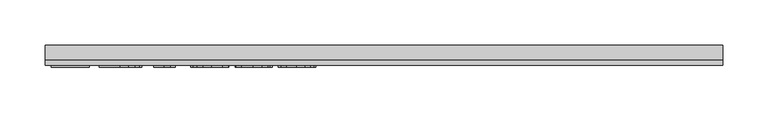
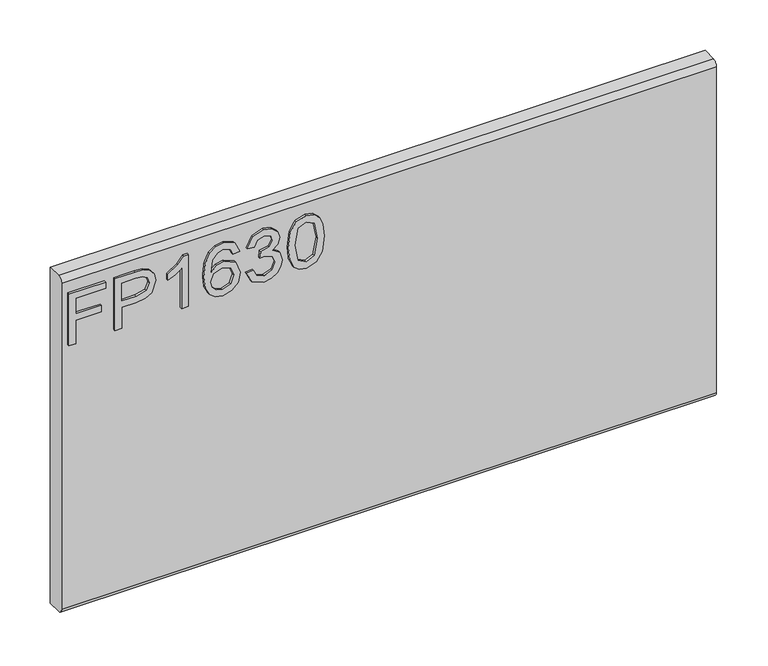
"""IFC4 building model written with IfcOpenShell, lengths in millimetres: furniture geometry."""

import ifcopenshell
import ifcopenshell.guid

model = None  # the IFC model being written
_history = None  # IfcOwnerHistory: only IFC2X3 demands one
_inside = {}  # id of a spatial element -> (the spatial element, [elements in it])
_under = {}  # id of a project, library or spatial element -> (it, [spatial elements below it])
_declared = {}  # id of a project -> (the project, [libraries it declares])
_typed = {}  # id of a type object -> (the type object, [elements of that type])
_made_of = {}  # id of a material, layer set ... -> (it, [elements and type objects made of it])


def new_model(schema):
    """Start an empty IFC model of exactly this schema.

    Asked for "IFC4X3", IfcOpenShell would pick the latest addendum, in which some entities
    have other attributes; the version numbers below select the first issue.
    IFC2X3 requires an IfcOwnerHistory on every rooted entity: one is made here for all.
    """
    global model, _history
    if schema == "IFC4X3":
        model = ifcopenshell.file(schema_version=(4, 3, 0, 0))
    else:
        model = ifcopenshell.file(schema=schema)
    _inside.clear()
    _under.clear()
    _declared.clear()
    _typed.clear()
    _made_of.clear()
    _history = None
    if model.schema == "IFC2X3":
        org = make("IfcOrganization", Name="unknown")
        user = make(
            "IfcPersonAndOrganization",
            ThePerson=make("IfcPerson", FamilyName="unknown"),
            TheOrganization=org,
        )
        app = make(
            "IfcApplication",
            ApplicationDeveloper=org,
            Version="unknown",
            ApplicationFullName="unknown",
            ApplicationIdentifier="unknown",
        )
        _history = make(
            "IfcOwnerHistory",
            OwningUser=user,
            OwningApplication=app,
            ChangeAction="ADDED",
            CreationDate=0,
        )
    return model


def make(cls, **values):
    """One entity of the class cls with the attributes given. An attribute that is None is left unset."""
    return model.create_entity(
        cls, **{name: value for name, value in values.items() if value is not None}
    )


def rooted(cls, **values):
    """An entity with a GlobalId (a new one), such as an element, a storey or a relation."""
    return make(cls, GlobalId=ifcopenshell.guid.new(), OwnerHistory=_history, **values)


def si_unit(unit_type, name, prefix=None):
    """IfcSIUnit, for example si_unit("LENGTHUNIT", "METRE", prefix="MILLI")."""
    return make("IfcSIUnit", UnitType=unit_type, Prefix=prefix, Name=name)


def assignment(units):
    """IfcUnitAssignment: the units of a project."""
    return None if units is None else make("IfcUnitAssignment", Units=units)


def point(xyz):
    """IfcCartesianPoint."""
    return None if xyz is None else make("IfcCartesianPoint", Coordinates=xyz)


def direction(xyz):
    """IfcDirection."""
    return None if xyz is None else make("IfcDirection", DirectionRatios=xyz)


def frame(location, z_axis=None, x_axis=None):
    """IfcAxis2Placement3D, a coordinate frame: its origin and axes. An axis left out is left unset."""
    return make(
        "IfcAxis2Placement3D",
        Location=point(location),
        Axis=direction(z_axis),
        RefDirection=direction(x_axis),
    )


def origin():
    """The frame at (0, 0, 0) with its axes left unset."""
    return frame((0.0, 0.0, 0.0))


def place(relative_to, where):
    """IfcLocalPlacement: puts the frame where relative to a parent placement (None: the world)."""
    return make(
        "IfcLocalPlacement", PlacementRelTo=relative_to, RelativePlacement=where
    )


def context(
    kind, dimensions, precision=None, world=None, true_north=None, identifier=None
):
    """IfcGeometricRepresentationContext, for example the 3D "Model" context."""
    return make(
        "IfcGeometricRepresentationContext",
        ContextIdentifier=identifier,
        ContextType=kind,
        CoordinateSpaceDimension=dimensions,
        Precision=precision,
        WorldCoordinateSystem=world,
        TrueNorth=true_north,
    )


def project(units=None, contexts=None):
    """IfcProject with its units and contexts."""
    return rooted(
        "IfcProject",
        Name="project",
        RepresentationContexts=contexts,
        UnitsInContext=assignment(units),
    )


def spatial(cls, under=None, at=None, **own):
    """A site, building, storey or space (cls), placed at a placement, below another one or the project."""
    s = rooted(cls, ObjectPlacement=at, **own)
    if under is not None:
        _under.setdefault(under.id(), (under, []))[1].append(s)
    return s


def polyline(points):
    """IfcPolyline through the points."""
    return make("IfcPolyline", Points=[point(p) for p in points])


def circle_curve(where, radius):
    """IfcCircle in the frame where."""
    return make("IfcCircle", Position=where, Radius=radius)


def outline(outer, holes=None, kind="AREA"):
    """IfcArbitraryClosedProfileDef: a profile drawn as a closed curve; with holes, ...WithVoids."""
    if holes is None:
        return make("IfcArbitraryClosedProfileDef", ProfileType=kind, OuterCurve=outer)
    return make(
        "IfcArbitraryProfileDefWithVoids",
        ProfileType=kind,
        OuterCurve=outer,
        InnerCurves=holes,
    )


def extrude(swept, where, along, depth):
    """IfcExtrudedAreaSolid: the profile swept, set in the frame where, extruded along a direction by depth."""
    return make(
        "IfcExtrudedAreaSolid",
        SweptArea=swept,
        Position=where,
        ExtrudedDirection=direction(along),
        Depth=depth,
    )


def shape(context_of_items, identifier, shape_type, items):
    """IfcShapeRepresentation: the items that make up one representation, for example the "Body"."""
    return make(
        "IfcShapeRepresentation",
        ContextOfItems=context_of_items,
        RepresentationIdentifier=identifier,
        RepresentationType=shape_type,
        Items=items,
    )


def source(mapping_origin, context_of_items, identifier, shape_type, items):
    """IfcRepresentationMap: a shape defined once, which mapped items show again and again."""
    return make(
        "IfcRepresentationMap",
        MappingOrigin=mapping_origin,
        MappedRepresentation=shape(context_of_items, identifier, shape_type, items),
    )


def transform(
    local_origin,
    x_axis=None,
    y_axis=None,
    z_axis=None,
    scale=None,
    scale2=None,
    scale3=None,
    uniform=True,
):
    """IfcCartesianTransformationOperator3D, or its non-uniform kind. x_axis, y_axis, z_axis: its Axis1, 2, 3."""
    if uniform:
        return make(
            "IfcCartesianTransformationOperator3D",
            Axis1=direction(x_axis),
            Axis2=direction(y_axis),
            LocalOrigin=point(local_origin),
            Scale=scale,
            Axis3=direction(z_axis),
        )
    return make(
        "IfcCartesianTransformationOperator3DnonUniform",
        Axis1=direction(x_axis),
        Axis2=direction(y_axis),
        LocalOrigin=point(local_origin),
        Scale=scale,
        Axis3=direction(z_axis),
        Scale2=scale2,
        Scale3=scale3,
    )


def mapped(mapping_source, mapping_target):
    """IfcMappedItem: shows the shape of a source again, moved by a transform."""
    return make(
        "IfcMappedItem", MappingSource=mapping_source, MappingTarget=mapping_target
    )


def made_of(thing, what):
    """Note that an element or type object is made of a material, layer set ...; save() writes the relation."""
    if what is not None:
        _made_of.setdefault(what.id(), (what, []))[1].append(thing)
    return thing


def element(
    cls,
    number,
    at=None,
    inside=None,
    cuts=None,
    type_object=None,
    material=None,
    context=None,
    identifier="Body",
    shape_type=None,
    held_by="IfcProductDefinitionShape",
    body=None,
    shapes=None,
    **own,
):
    """One element of the class cls, such as IfcWall. Its Tag is "e" and its number.

    at: its placement. inside: the storey or other place that contains it. cuts: it is an
    opening in that element (IfcRelVoidsElement). A single representation is given by context,
    identifier, shape_type and body (its items); several are given by shapes. held_by: the class
    of the entity that holds the representations. save() writes the other relations.
    """
    e = rooted(cls, Tag="e%d" % number, ObjectPlacement=at, **own)
    if body is not None:
        shapes = [shape(context, identifier, shape_type, body)]
    if shapes is not None:
        e.Representation = make(held_by, Representations=shapes)
    if inside is not None:
        _inside.setdefault(inside.id(), (inside, []))[1].append(e)
    if cuts is not None:
        rooted(
            "IfcRelVoidsElement", RelatingBuildingElement=cuts, RelatedOpeningElement=e
        )
    if type_object is not None:
        _typed.setdefault(type_object.id(), (type_object, []))[1].append(e)
    return made_of(e, material)


def aggregate(whole, parts):
    """IfcRelAggregates: a whole, such as a stair, and the parts it consists of."""
    return rooted("IfcRelAggregates", RelatingObject=whole, RelatedObjects=parts)


def save(model, path):
    """Write the relations noted so far, then the file.

    IfcRelAggregates (storeys below a building ...), IfcRelContainedInSpatialStructure (elements
    in a storey), IfcRelDefinesByType, IfcRelAssociatesMaterial and IfcRelDeclares: one each for
    every whole, place, type object, material and project.
    """
    for whole, parts in _under.values():
        aggregate(whole, parts)
    for where, things in _inside.values():
        rooted(
            "IfcRelContainedInSpatialStructure",
            RelatedElements=things,
            RelatingStructure=where,
        )
    for kind, things in _typed.values():
        rooted("IfcRelDefinesByType", RelatedObjects=things, RelatingType=kind)
    for what, things in _made_of.values():
        rooted("IfcRelAssociatesMaterial", RelatedObjects=things, RelatingMaterial=what)
    for by, libraries in _declared.values():
        rooted("IfcRelDeclares", RelatingContext=by, RelatedDefinitions=libraries)
    model.write(path)


def plane_surface(at):
    """IfcPlane: the flat surface through the origin of the frame at, square to its z axis."""
    return make("IfcPlane", Position=at)


def cylinder_surface(at, radius):
    """IfcCylindricalSurface: all points at the distance radius from the z axis of the frame at."""
    return make("IfcCylindricalSurface", Position=at, Radius=radius)


def advanced_brep(points, edges, surfaces, faces):
    """IfcAdvancedBrep: a solid bounded by faces that lie on surfaces and meet in shared edges.

    An edge is (start, end): straight between two places in points (the first is 0);
    or (start, end, curve); or (start, end, curve, False) where it runs against its curve.
    A face is (place in surfaces, loops), or (place, loops, False) where it looks against
    its surface's normal. A loop lists edges by number (the first is 1), with a minus sign
    where the edge is run from its end to its start. The first loop is the outer one.
    """
    corners = [point(p) for p in points]
    vertices = [make("IfcVertexPoint", VertexGeometry=c) for c in corners]
    made = []
    for start, end, *more in edges:
        made.append(
            make(
                "IfcEdgeCurve",
                EdgeStart=vertices[start],
                EdgeEnd=vertices[end],
                EdgeGeometry=more[0] if more else make("IfcPolyline", Points=[corners[start], corners[end]]),
                SameSense=more[1] if len(more) > 1 else True,
            )
        )
    hull = []
    for where, loops, *sense in faces:
        bounds = []
        for j, loop in enumerate(loops):
            ring = [make("IfcOrientedEdge", EdgeElement=made[abs(k) - 1], Orientation=k > 0) for k in loop]
            bounds.append(
                make(
                    "IfcFaceOuterBound" if j == 0 else "IfcFaceBound",
                    Bound=make("IfcEdgeLoop", EdgeList=ring),
                    Orientation=True,
                )
            )
        hull.append(make("IfcAdvancedFace", Bounds=bounds, FaceSurface=surfaces[where], SameSense=sense[0] if sense else True))
    return make("IfcAdvancedBrep", Outer=make("IfcClosedShell", CfsFaces=hull))


def furniture_44389360(model_context):
    return source(origin(), model_context, "Body", "SolidModel", [
        extrude(outline(polyline([(882.65, -367.8115385), (882.65, -359.9961538), (910.9807692, -359.9961538), (910.9807692, -330.6884615), (918.7961538, -330.6884615), (918.7961538, -359.9961538), (937.3576923, -359.9961538), (937.3576923, -325.8038462), (945.1730769, -325.8038462), (945.1730769, -367.8115385), (882.65, -367.8115385)])), frame((0.0, -15.0812439, 0.0), z_axis=(0.0, 1.0, 0.0), x_axis=(0.0, 0.0, 1.0)), (0.0, 0.0, 1.0), 2.38125),
        extrude(outline(polyline([(882.65, -315.0576923), (882.65, -307.2423077), (908.05, -307.2423077), (908.05, -291.3520433), (909.4314303, -280.2490835), (913.5757212, -273.195012), (927.0847356, -268.1653846), (935.6099159, -270.0276442), (941.6546274, -274.9504207), (944.5777644, -282.5444712), (945.1730769, -291.8862981), (945.1730769, -315.0576923), (882.65, -315.0576923)]), holes=[polyline([(915.8653846, -307.2423077), (937.3576923, -307.2423077), (937.3576923, -291.0772837), (936.8234375, -283.261899), (933.2820913, -277.9880409), (926.809976, -275.9807692), (918.7350962, -279.3847356), (915.8653846, -290.8941106), (915.8653846, -307.2423077)])]), frame((0.0, -15.0812439, 0.0), z_axis=(0.0, 1.0, 0.0), x_axis=(0.0, 0.0, 1.0)), (0.0, 0.0, 1.0), 2.38125),
        extrude(outline(polyline([(882.65, -231.0423077), (945.1730769, -231.0423077), (945.1730769, -236.0795673), (936.8539663, -243.032512), (929.5423077, -254.4884615), (922.1543269, -254.4884615), (926.1001803, -246.2609375), (931.3740385, -238.8576923), (882.65, -238.8576923), (882.65, -231.0423077)])), frame((0.0, -15.0812439, 0.0), z_axis=(0.0, 1.0, 0.0), x_axis=(0.0, 0.0, 1.0)), (0.0, 0.0, 1.0), 2.38125),
        extrude(outline(polyline([(928.5653846, -172.4269231), (940.7616587, -178.196875), (945.1730769, -190.5457933), (943.3909555, -199.6166767), (938.0445913, -206.6192308), (927.4014724, -211.7480769), (911.8355769, -213.4576923), (897.9907452, -211.9178936), (888.6947115, -207.2984976), (883.4284856, -200.2367939), (881.6730769, -191.3700721), (884.3214543, -181.1276442), (891.9536659, -174.0296875), (902.7379808, -171.45), (917.1323317, -176.9299279), (922.7038462, -190.209976), (920.6660457, -198.7504207), (914.4305288, -205.6423077), (928.3593149, -203.4213341), (935.4649038, -198.0864183), (937.3576923, -191.0342548), (934.1063702, -183.2036058), (927.5884615, -180.2423077), (928.5653846, -172.4269231)]), holes=[polyline([(902.8600962, -205.6423077), (911.5684495, -201.757512), (914.8884615, -192.3012019), (911.5684495, -182.7227764), (902.4784856, -179.2653846), (892.9840144, -182.7685697), (889.4884615, -191.980649), (891.1751803, -199.0251803), (896.0903245, -203.8334736), (902.8600962, -205.6423077)])]), frame((0.0, -15.0812439, 0.0), z_axis=(0.0, 1.0, 0.0), x_axis=(0.0, 0.0, 1.0)), (0.0, 0.0, 1.0), 2.38125),
        extrude(outline(polyline([(899.2576923, -164.6115385), (886.5729567, -158.3989183), (881.6730769, -144.6914663), (883.1079327, -136.3380108), (887.4125, -129.5644231), (893.7777644, -125.0766827), (901.3947115, -123.5807692), (911.5608173, -126.5725962), (916.9033654, -135.0901442), (922.0780048, -128.6790865), (929.2828125, -126.5115385), (937.166887, -128.7935697), (943.0284255, -135.3878005), (945.1730769, -144.8135817), (940.8227163, -157.2388221), (928.5653846, -163.6346154), (927.5884615, -155.8192308), (934.9153846, -151.9878606), (937.3576923, -144.5388221), (934.9382813, -137.1813702), (928.8248798, -134.3269231), (921.9253606, -138.2651442), (919.7730769, -148.3854567), (911.9576923, -149.2555288), (912.8125, -143.775601), (909.6146034, -134.8917067), (901.5320913, -131.3961538), (892.9534856, -134.9222356), (889.4884615, -144.4167067), (892.0070913, -152.4839543), (900.2346154, -156.7961538), (899.2576923, -164.6115385)])), frame((0.0, -15.0812439, 0.0), z_axis=(0.0, 1.0, 0.0), x_axis=(0.0, 0.0, 1.0)), (0.0, 0.0, 1.0), 2.38125),
        extrude(outline(polyline([(913.4078125, -116.7423077), (898.200631, -115.1853365), (887.6262019, -110.5144231), (883.1613582, -104.3475962), (881.6730769, -96.2269231), (885.0999399, -84.786238), (895.495012, -77.9859375), (913.4078125, -75.7115385), (928.0998197, -77.1311298), (937.3500601, -80.7945913), (943.1581731, -87.0987981), (945.1730769, -96.2269231), (941.7691106, -107.6218149), (931.3969351, -114.445012), (913.4078125, -116.7423077)]), holes=[polyline([(913.4230769, -108.9269231), (933.1752404, -105.1413462), (937.3576923, -96.3185096), (932.6104567, -87.0682692), (913.4230769, -83.5269231), (894.0296274, -87.1903846), (889.4884615, -96.2269231), (894.014363, -105.2634615), (913.4230769, -108.9269231)])]), frame((0.0, -15.0812439, 0.0), z_axis=(0.0, 1.0, 0.0), x_axis=(0.0, 0.0, 1.0)), (0.0, 0.0, 1.0), 2.38125),
        advanced_brep(
        [(374.65, 9.5250061, 965.2), (374.65, -6.7309939, 965.2), (374.65, -12.6999939, 959.231), (374.65, -12.6999939, 564.769), (374.65, -6.7309939, 558.8), (374.65, 9.5250061, 558.8), (-374.65, 9.5250061, 965.2), (-374.65, 9.5250061, 558.8), (-374.65, -6.7309939, 558.8), (-374.65, -12.6999939, 564.769), (-374.65, -12.6999939, 959.2310121), (-374.65, -6.7309939, 965.2)],
        [
            (0, 1),
            (1, 2, circle_curve(frame((374.65, -6.7309939, 959.231), z_axis=(1.0, 0.0, 0.0), x_axis=(0.0, 1.0, 0.0)), 5.969)),
            (2, 3),
            (3, 4, circle_curve(frame((374.65, -6.7309939, 564.769), z_axis=(1.0, 0.0, 0.0), x_axis=(0.0, 1.0, 0.0)), 5.969)),
            (4, 5),
            (5, 0),
            (6, 7),
            (7, 8),
            (8, 9, circle_curve(frame((-374.65, -6.7309939, 564.769), z_axis=(-1.0, 0.0, 0.0), x_axis=(0.0, 1.0, 0.0)), 5.969)),
            (9, 10),
            (10, 11, circle_curve(frame((-374.65, -6.7309939, 959.231), z_axis=(-1.0, 0.0, 0.0), x_axis=(0.0, 1.0, 0.0)), 5.969)),
            (11, 6),
            (0, 6),
            (11, 1),
            (10, 2),
            (9, 3),
            (8, 4),
            (7, 5),
        ],
        [
            plane_surface(frame((374.65, -6.7309939, 965.2), z_axis=(1.0, 0.0, 0.0), x_axis=(0.0, -1.0, 0.0))),
            plane_surface(frame((-374.65, -6.7309939, 965.2), z_axis=(-1.0, 0.0, 0.0), x_axis=(0.0, 1.0, 0.0))),
            plane_surface(frame((374.65, 9.5250061, 965.2), z_axis=(0.0, 0.0, 1.0), x_axis=(-1.0, 0.0, 0.0))),
            cylinder_surface(frame((-374.65, -6.7309939, 959.231), z_axis=(1.0, 0.0, 0.0), x_axis=(0.0, 1.0, 0.0)), 5.969),
            plane_surface(frame((374.65, -12.6999939, 959.2310121), z_axis=(0.0, -1.0, 0.0), x_axis=(-1.0, 0.0, 0.0))),
            cylinder_surface(frame((-374.65, -6.7309939, 564.769), z_axis=(1.0, 0.0, 0.0), x_axis=(0.0, 1.0, 0.0)), 5.969),
            plane_surface(frame((374.65, -6.7309939, 558.8), z_axis=(0.0, 0.0, -1.0), x_axis=(-1.0, 0.0, 0.0))),
            plane_surface(frame((374.65, 9.5250061, 558.8), z_axis=(0.0, 1.0, 0.0), x_axis=(-1.0, 0.0, 0.0))),
        ],
        [
            (0, [[1, 2, 3, 4, 5, 6]]),
            (1, [[7, 8, 9, 10, 11, 12]]),
            (2, [[-1, 13, -12, 14]]),
            (3, [[-2, -14, -11, 15]]),
            (4, [[-3, -15, -10, 16]]),
            (5, [[-4, -16, -9, 17]]),
            (6, [[-5, -17, -8, 18]]),
            (7, [[-6, -18, -7, -13]]),
        ],
    ),
    ])


if __name__ == "__main__":
    model = new_model("IFC4")
    model_context = context("Model", 3, world=origin())
    ifc_project = project(units=[si_unit("LENGTHUNIT", "METRE", prefix="MILLI")], contexts=[model_context])
    site = spatial("IfcSite", under=ifc_project)
    building = spatial("IfcBuilding", under=site)
    placement = place(None, origin())
    furniture_shape = furniture_44389360(model_context)
    element("IfcFurniture", 1, ObjectType="HermanMiller_Ethospace_E1420_FaceTile : Ptd 16\"H x 30\"W", at=placement, inside=building, context=model_context, shape_type="MappedRepresentation", body=[
        mapped(furniture_shape, transform((0.0, 0.0, 0.0), x_axis=(1.0, 0.0, 0.0), y_axis=(0.0, 1.0, 0.0), z_axis=(0.0, 0.0, 1.0))),
    ])
    save(model, "model.ifc")
